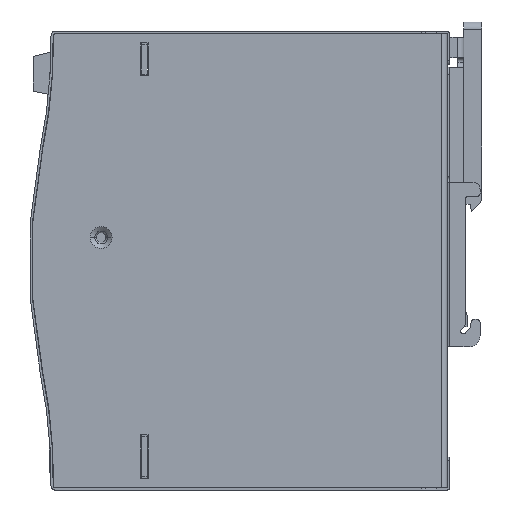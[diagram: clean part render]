
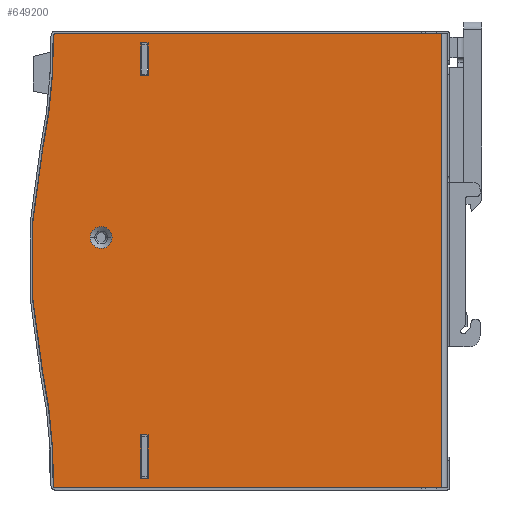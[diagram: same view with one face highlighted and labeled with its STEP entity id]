
A CAD part, front view. The second image highlights one B-rep face of the part: STEP entity #649200.
In plain terms, the highlighted planar face has unit normal (0, -1, 0) as drawn and (0, 1, 0) by its records, which use the part's own axes.
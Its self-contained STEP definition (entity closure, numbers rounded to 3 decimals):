
#627090=CARTESIAN_POINT('',(-8.439,76.236,74.));
#627100=VERTEX_POINT('',#627090);
#627130=CARTESIAN_POINT('',(-8.439,76.236,74.));
#627140=DIRECTION('',(1.,0.,0.));
#627150=VECTOR('',#627140,105.392);
#627160=LINE('',#627130,#627150);
#627170=CARTESIAN_POINT('',(96.953,76.236,74.));
#627180=VERTEX_POINT('',#627170);
#627190=EDGE_CURVE('',#627100,#627180,#627160,.T.);
#634520=CARTESIAN_POINT('',(96.953,76.236,-50.));
#634530=VERTEX_POINT('',#634520);
#634560=CARTESIAN_POINT('',(-8.439,76.236,-50.));
#634570=DIRECTION('',(1.,0.,0.));
#634580=VECTOR('',#634570,105.392);
#634590=LINE('',#634560,#634580);
#634600=CARTESIAN_POINT('',(-8.439,76.236,-50.));
#634610=VERTEX_POINT('',#634600);
#634620=EDGE_CURVE('',#634610,#634530,#634590,.T.);
#647590=CARTESIAN_POINT('',(14.853,76.236,-38.5));
#647600=VERTEX_POINT('',#647590);
#647680=CARTESIAN_POINT('',(16.853,76.236,-38.5));
#647690=VERTEX_POINT('',#647680);
#647720=CARTESIAN_POINT('',(14.853,76.236,-38.5));
#647730=DIRECTION('',(1.,0.,0.));
#647740=VECTOR('',#647730,2.);
#647750=LINE('',#647720,#647740);
#647760=EDGE_CURVE('',#647600,#647690,#647750,.T.);
#647880=CARTESIAN_POINT('',(85.903,76.236,0.));
#647890=DIRECTION('',(-0.,1.,0.));
#647900=DIRECTION('',(1.,0.,0.));
#647910=AXIS2_PLACEMENT_3D('',#647880,#647890,#647900);
#647920=PLANE('',#647910);
#647930=CARTESIAN_POINT('',(-8.439,76.236,-49.5));
#647940=DIRECTION('',(0.,-1.,0.));
#647950=DIRECTION('',(-1.,0.,0.01));
#647960=AXIS2_PLACEMENT_3D('',#647930,#647940,#647950);
#647970=CIRCLE('',#647960,0.5);
#647980=CARTESIAN_POINT('',(-8.939,76.236,-49.495));
#647990=VERTEX_POINT('',#647980);
#648000=EDGE_CURVE('',#647990,#634610,#647970,.T.);
#648010=ORIENTED_EDGE('',*,*,#648000,.F.);
#648020=ORIENTED_EDGE('',*,*,#634620,.F.);
#648030=CARTESIAN_POINT('',(96.953,76.236,74.));
#648040=DIRECTION('',(0.,0.,-1.));
#648050=VECTOR('',#648040,124.);
#648060=LINE('',#648030,#648050);
#648070=EDGE_CURVE('',#627180,#634530,#648060,.T.);
#648080=ORIENTED_EDGE('',*,*,#648070,.T.);
#648090=ORIENTED_EDGE('',*,*,#627190,.T.);
#648100=CARTESIAN_POINT('',(-8.439,76.236,73.5));
#648110=DIRECTION('',(0.,-1.,0.));
#648120=DIRECTION('',(0.,0.,1.));
#648130=AXIS2_PLACEMENT_3D('',#648100,#648110,#648120);
#648140=CIRCLE('',#648130,0.5);
#648150=CARTESIAN_POINT('',(-8.939,76.236,73.495));
#648160=VERTEX_POINT('',#648150);
#648170=EDGE_CURVE('',#627100,#648160,#648140,.T.);
#648180=ORIENTED_EDGE('',*,*,#648170,.F.);
#648190=CARTESIAN_POINT('',(-158.932,76.236,72.019));
#648200=DIRECTION('',(0.,-1.,0.));
#648210=DIRECTION('',(0.98,0.,-0.2));
#648220=AXIS2_PLACEMENT_3D('',#648190,#648200,#648210);
#648230=CIRCLE('',#648220,150.);
#648240=CARTESIAN_POINT('',(-11.964,76.236,42.01));
#648250=VERTEX_POINT('',#648240);
#648260=EDGE_CURVE('',#648250,#648160,#648230,.T.);
#648270=ORIENTED_EDGE('',*,*,#648260,.T.);
#648280=CARTESIAN_POINT('',(135.003,76.236,12.));
#648290=DIRECTION('',(0.,-1.,0.));
#648300=DIRECTION('',(-0.98,0.,0.2));
#648310=AXIS2_PLACEMENT_3D('',#648280,#648290,#648300);
#648320=CIRCLE('',#648310,150.);
#648330=CARTESIAN_POINT('',(-11.964,76.236,-18.01));
#648340=VERTEX_POINT('',#648330);
#648350=EDGE_CURVE('',#648250,#648340,#648320,.T.);
#648360=ORIENTED_EDGE('',*,*,#648350,.F.);
#648370=CARTESIAN_POINT('',(-158.932,76.236,-48.019));
#648380=DIRECTION('',(0.,-1.,0.));
#648390=DIRECTION('',(1.,0.,-0.01));
#648400=AXIS2_PLACEMENT_3D('',#648370,#648380,#648390);
#648410=CIRCLE('',#648400,150.);
#648420=EDGE_CURVE('',#647990,#648340,#648410,.T.);
#648430=ORIENTED_EDGE('',*,*,#648420,.T.);
#648440=EDGE_LOOP('',(#648430,#648360,#648270,#648180,#648090,#648080,
#648020,#648010));
#648450=FACE_OUTER_BOUND('',#648440,.T.);
#648460=CARTESIAN_POINT('',(16.853,76.236,59.5));
#648470=DIRECTION('',(-1.,0.,0.));
#648480=VECTOR('',#648470,2.);
#648490=LINE('',#648460,#648480);
#648500=CARTESIAN_POINT('',(16.853,76.236,59.5));
#648510=VERTEX_POINT('',#648500);
#648520=CARTESIAN_POINT('',(14.853,76.236,59.5));
#648530=VERTEX_POINT('',#648520);
#648540=EDGE_CURVE('',#648510,#648530,#648490,.T.);
#648550=ORIENTED_EDGE('',*,*,#648540,.F.);
#648560=CARTESIAN_POINT('',(14.853,76.236,59.5));
#648570=DIRECTION('',(0.,0.,1.));
#648580=VECTOR('',#648570,12.);
#648590=LINE('',#648560,#648580);
#648600=CARTESIAN_POINT('',(14.853,76.236,71.5));
#648610=VERTEX_POINT('',#648600);
#648620=EDGE_CURVE('',#648530,#648610,#648590,.T.);
#648630=ORIENTED_EDGE('',*,*,#648620,.F.);
#648640=CARTESIAN_POINT('',(14.853,76.236,71.5));
#648650=DIRECTION('',(1.,0.,0.));
#648660=VECTOR('',#648650,2.);
#648670=LINE('',#648640,#648660);
#648680=CARTESIAN_POINT('',(16.853,76.236,71.5));
#648690=VERTEX_POINT('',#648680);
#648700=EDGE_CURVE('',#648610,#648690,#648670,.T.);
#648710=ORIENTED_EDGE('',*,*,#648700,.F.);
#648720=CARTESIAN_POINT('',(16.853,76.236,71.5));
#648730=DIRECTION('',(0.,0.,-1.));
#648740=VECTOR('',#648730,12.);
#648750=LINE('',#648720,#648740);
#648760=EDGE_CURVE('',#648690,#648510,#648750,.T.);
#648770=ORIENTED_EDGE('',*,*,#648760,.F.);
#648780=EDGE_LOOP('',(#648770,#648710,#648630,#648550));
#648790=FACE_BOUND('',#648780,.T.);
#648800=CARTESIAN_POINT('',(4.053,76.236,5.64));
#648810=DIRECTION('',(0.,1.,0.));
#648820=DIRECTION('',(-1.,0.,0.));
#648830=AXIS2_PLACEMENT_3D('',#648800,#648810,#648820);
#648840=CIRCLE('',#648830,3.);
#648850=CARTESIAN_POINT('',(1.053,76.236,
5.64));
#648860=VERTEX_POINT('',#648850);
#648870=CARTESIAN_POINT('',(7.053,76.236,
5.64));
#648880=VERTEX_POINT('',#648870);
#648890=EDGE_CURVE('',#648860,#648880,#648840,.T.);
#648900=ORIENTED_EDGE('',*,*,#648890,.F.);
#648910=EDGE_CURVE('',#648880,#648860,#648840,.T.);
#648920=ORIENTED_EDGE('',*,*,#648910,.F.);
#648930=EDGE_LOOP('',(#648920,#648900));
#648940=FACE_BOUND('',#648930,.T.);
#648950=CARTESIAN_POINT('',(16.853,76.236,-38.5));
#648960=DIRECTION('',(0.,0.,-1.));
#648970=VECTOR('',#648960,9.);
#648980=LINE('',#648950,#648970);
#648990=CARTESIAN_POINT('',(16.853,76.236,-47.5));
#649000=VERTEX_POINT('',#648990);
#649010=EDGE_CURVE('',#647690,#649000,#648980,.T.);
#649020=ORIENTED_EDGE('',*,*,#649010,.F.);
#649030=CARTESIAN_POINT('',(16.853,76.236,-47.5));
#649040=DIRECTION('',(-1.,0.,0.));
#649050=VECTOR('',#649040,2.);
#649060=LINE('',#649030,#649050);
#649070=CARTESIAN_POINT('',(14.853,76.236,-47.5));
#649080=VERTEX_POINT('',#649070);
#649090=EDGE_CURVE('',#649000,#649080,#649060,.T.);
#649100=ORIENTED_EDGE('',*,*,#649090,.F.);
#649110=CARTESIAN_POINT('',(14.853,76.236,-47.5));
#649120=DIRECTION('',(0.,0.,1.));
#649130=VECTOR('',#649120,9.);
#649140=LINE('',#649110,#649130);
#649150=EDGE_CURVE('',#649080,#647600,#649140,.T.);
#649160=ORIENTED_EDGE('',*,*,#649150,.F.);
#649170=ORIENTED_EDGE('',*,*,#647760,.F.);
#649180=EDGE_LOOP('',(#649170,#649160,#649100,#649020));
#649190=FACE_BOUND('',#649180,.T.);
#649200=ADVANCED_FACE('',(#648450,#648790,#648940,#649190),#647920,.T.);
